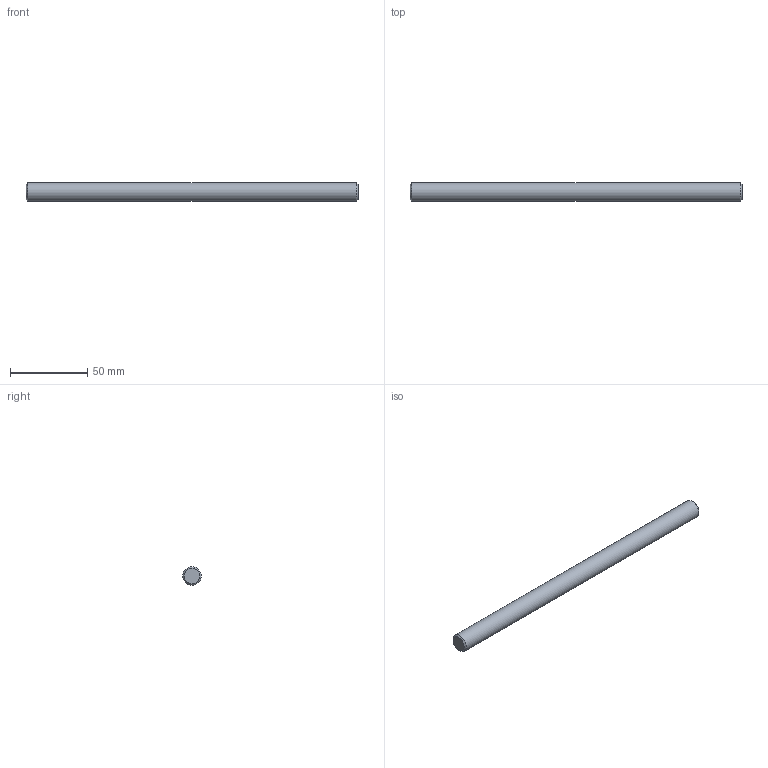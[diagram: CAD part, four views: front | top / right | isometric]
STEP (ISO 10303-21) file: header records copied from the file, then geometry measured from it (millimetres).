
FILE_DESCRIPTION(/* description */ (''),/* implementation_level */ '2;1');
FILE_NAME(/* name */ '2020TOMO-TELAIO-ASSY.00_v12-Part_13.stp',/* time_stamp */ '2022-05-16T13:37:26+02:00',/* author */ (''),/* organization */ (''),/* preprocessor_version */ 'ST-DEVELOPER v18.102',/* originating_system */ 'SIEMENS PLM Software NX 2000',/* authorisation */ '');
FILE_SCHEMA (('AUTOMOTIVE_DESIGN { 1 0 10303 214 3 1 1 1 }'));
Length unit declared in the file: millimetre
Products named in the file (1): turc3144724Fyy83
Bounding box: 215 x 12 x 12 mm (x, y, z)
Volume: 24280.3 mm3; surface area: 8284.7 mm2
Topology: 1 solids, 1 shells, 5 faces, 10 edges, 7 vertices
Faces by surface type: cone 2, plane 2, cylinder 1
Full cylindrical faces by diameter (mm): 12 x1
Entity records: 148 total; most frequent: DIRECTION 24, CARTESIAN_POINT 16, AXIS2_PLACEMENT_3D 12, EDGE_LOOP 8, ORIENTED_EDGE 8, FACE_BOUND 6, CIRCLE 6, ADVANCED_FACE 5
